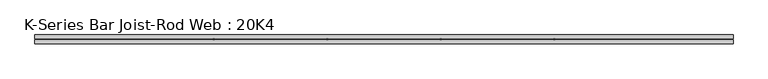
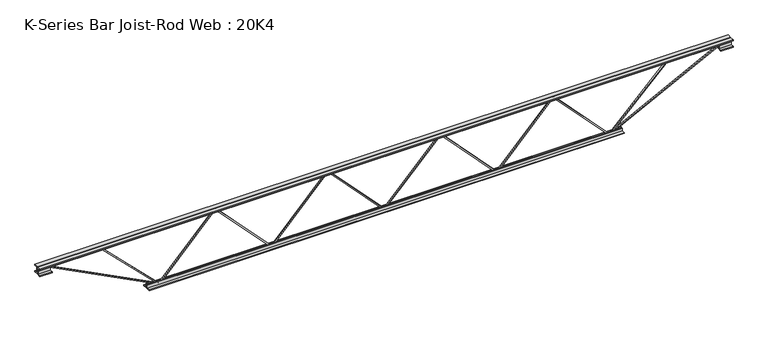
"""IFC4 building model written with IfcOpenShell, lengths in millimetres: beam geometry, K-Series Bar Joist-Rod Web : 20K4."""

from ifc_helpers import new_model, si_unit, frame, origin, place, context, project, spatial, polyline, outline, extrude, source, transform, mapped, element, save


def k_series_bar_joist_rod_web_20k4_3f3eeb71(model_context):
    return source(origin(), model_context, "Body", "SweptSolid", [
        extrude(outline(polyline([(-242.8875, 0.0), (-252.4125, 0.0), (-252.4125, 5.2334525), (242.8875, 471.1647025), (242.8875, 473.3977975), (-252.4125, 939.3290475), (-252.4125, 944.5625), (-242.8875, 944.5625), (-242.8875, 943.4459525), (252.4125, 477.5147025), (252.4125, 467.0477975), (-242.8875, 1.1165475), (-242.8875, 0.0)])), frame((0.0, -4.7625, 0.0), z_axis=(0.0, 1.0, 0.0), x_axis=(0.0, 0.0, 1.0)), (0.0, 0.0, 1.0), 9.525),
        extrude(outline(polyline([(-242.8875, -944.5625), (-252.4125, -944.5625), (-252.4125, -939.3290475), (242.8875, -473.3977975), (242.8875, -471.1647025), (-252.4125, -5.2334525), (-252.4125, 0.0), (-242.8875, 0.0), (-242.8875, -1.1165475), (252.4125, -467.0477975), (252.4125, -477.5147025), (-242.8875, -943.4459525), (-242.8875, -944.5625)])), frame((0.0, -4.7625, 0.0), z_axis=(0.0, 1.0, 0.0), x_axis=(0.0, 0.0, 1.0)), (0.0, 0.0, 1.0), 9.525),
        extrude(outline(polyline([(-242.8875, 944.5625), (-252.4125, 944.5625), (-252.4125, 949.7959525), (242.8875, 1415.7272025), (242.8875, 1417.9602975), (-252.4125, 1883.8915475), (-252.4125, 1889.125), (-242.8875, 1889.125), (-242.8875, 1888.0084525), (252.4125, 1422.0772025), (252.4125, 1411.6102975), (-242.8875, 945.6790475), (-242.8875, 944.5625)])), frame((0.0, -4.7625, 0.0), z_axis=(0.0, 1.0, 0.0), x_axis=(0.0, 0.0, 1.0)), (0.0, 0.0, 1.0), 9.525),
        extrude(outline(polyline([(-242.8875, -1889.125), (-252.4125, -1889.125), (-252.4125, -1883.8915475), (242.8875, -1417.9602975), (242.8875, -1415.7272025), (-252.4125, -949.7959525), (-252.4125, -944.5625), (-242.8875, -944.5625), (-242.8875, -945.6790475), (252.4125, -1411.6102975), (252.4125, -1422.0772025), (-242.8875, -1888.0084525), (-242.8875, -1889.125)])), frame((0.0, -4.7625, 0.0), z_axis=(0.0, 1.0, 0.0), x_axis=(0.0, 0.0, 1.0)), (0.0, 0.0, 1.0), 9.525),
        extrude(outline(polyline([(4.7625, 254.0), (36.5125, 254.0), (36.5125, 247.65), (11.1125, 247.65), (11.1125, 222.25), (4.7625, 222.25), (4.7625, 254.0)])), frame((-2905.125, 0.0, 0.0), z_axis=(1.0, 0.0, 0.0), x_axis=(0.0, 1.0, 0.0)), (0.0, 0.0, 1.0), 5810.25),
        extrude(outline(polyline([(-4.7625, 254.0), (-4.7625, 222.25), (-11.1125, 222.25), (-11.1125, 247.65), (-36.5125, 247.65), (-36.5125, 254.0), (-4.7625, 254.0)])), frame((-2905.125, 0.0, 0.0), z_axis=(1.0, 0.0, 0.0), x_axis=(0.0, 1.0, 0.0)), (0.0, 0.0, 1.0), 5810.25),
        extrude(outline(polyline([(-4.7625, 190.5), (-36.5125, 190.5), (-36.5125, 196.85), (-11.1125, 196.85), (-11.1125, 222.25), (-4.7625, 222.25), (-4.7625, 190.5)])), frame((-2905.125, 0.0, 0.0), z_axis=(1.0, 0.0, 0.0), x_axis=(0.0, 1.0, 0.0)), (0.0, 0.0, 1.0), 101.6),
        extrude(outline(polyline([(36.5125, 190.5), (4.7625, 190.5), (4.7625, 222.25), (11.1125, 222.25), (11.1125, 196.85), (36.5125, 196.85), (36.5125, 190.5)])), frame((-2905.125, 0.0, 0.0), z_axis=(1.0, 0.0, 0.0), x_axis=(0.0, 1.0, 0.0)), (0.0, 0.0, 1.0), 101.6),
        extrude(outline(polyline([(4.7625, 190.5), (4.7625, 222.25), (11.1125, 222.25), (11.1125, 196.85), (36.5125, 196.85), (36.5125, 190.5), (4.7625, 190.5)])), frame((2803.525, 0.0, 0.0), z_axis=(1.0, 0.0, 0.0), x_axis=(0.0, 1.0, 0.0)), (0.0, 0.0, 1.0), 101.6),
        extrude(outline(polyline([(-4.7625, 190.5), (-36.5125, 190.5), (-36.5125, 196.85), (-11.1125, 196.85), (-11.1125, 222.25), (-4.7625, 222.25), (-4.7625, 190.5)])), frame((2803.525, 0.0, 0.0), z_axis=(1.0, 0.0, 0.0), x_axis=(0.0, 1.0, 0.0)), (0.0, 0.0, 1.0), 101.6),
        extrude(outline(polyline([(4.7625, -254.0), (4.7625, -222.25), (11.1125, -222.25), (11.1125, -247.65), (36.5125, -247.65), (36.5125, -254.0), (4.7625, -254.0)])), frame((-1990.725, 0.0, 0.0), z_axis=(1.0, 0.0, 0.0), x_axis=(0.0, 1.0, 0.0)), (0.0, 0.0, 1.0), 3981.45),
        extrude(outline(polyline([(-4.7625, -254.0), (-36.5125, -254.0), (-36.5125, -247.65), (-11.1125, -247.65), (-11.1125, -222.25), (-4.7625, -222.25), (-4.7625, -254.0)])), frame((-1990.725, 0.0, 0.0), z_axis=(1.0, 0.0, 0.0), x_axis=(0.0, 1.0, 0.0)), (0.0, 0.0, 1.0), 3981.45),
        extrude(outline(polyline([(0.0, -9.525), (0.0, 0.0), (1028.0726482, 0.0), (1028.0726482, -9.525), (0.0, -9.525)])), frame((-2805.7017905, 4.7625, 218.0140834), z_axis=(0.45706886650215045, 0.0, 0.8894313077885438), x_axis=(0.8894313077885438, 0.0, -0.45706886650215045)), (0.0, 0.0, 1.0), 9.525),
        extrude(outline(polyline([(0.0, -9.525), (0.0, 0.0), (666.2248788, 0.0), (666.2248788, -9.525), (0.0, -9.525)])), frame((-2364.7653241, 4.7625, 218.8739035), z_axis=(0.7053174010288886, 0.0, 0.708891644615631), x_axis=(0.708891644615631, 0.0, -0.7053174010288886)), (0.0, 0.0, 1.0), 9.525),
        extrude(outline(polyline([(0.0, -9.525), (0.0, 0.0), (1028.0726482, 0.0), (1028.0726482, -9.525), (0.0, -9.525)])), frame((2805.7017905, -4.7625, 218.0140834), z_axis=(-0.45706886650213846, 0.0, 0.8894313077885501), x_axis=(-0.8894313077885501, 0.0, -0.45706886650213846)), (0.0, 0.0, 1.0), 9.525),
        extrude(outline(polyline([(0.0, -9.525), (0.0, 0.0), (666.2248788, 0.0), (666.2248788, -9.525), (0.0, -9.525)])), frame((2364.7653241, -4.7625, 218.8739035), z_axis=(-0.7053174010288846, 0.0, 0.7088916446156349), x_axis=(-0.7088916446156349, 0.0, -0.7053174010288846)), (0.0, 0.0, 1.0), 9.525),
    ])


if __name__ == "__main__":
    model = new_model("IFC4")
    model_context = context("Model", 3, world=origin())
    ifc_project = project(units=[si_unit("LENGTHUNIT", "METRE", prefix="MILLI")], contexts=[model_context])
    site = spatial("IfcSite", under=ifc_project)
    building = spatial("IfcBuilding", under=site)
    placement = place(None, origin())
    k_series_bar_joist_rod_web_20k4_shape = k_series_bar_joist_rod_web_20k4_3f3eeb71(model_context)
    element("IfcBeam", 1, ObjectType="K-Series Bar Joist-Rod Web : 20K4", at=placement, inside=building, context=model_context, shape_type="MappedRepresentation", body=[
        mapped(k_series_bar_joist_rod_web_20k4_shape, transform((0.0, 0.0, 0.0), x_axis=(1.0, 0.0, 0.0), y_axis=(0.0, 1.0, 0.0), z_axis=(0.0, 0.0, 1.0))),
    ])
    save(model, "model.ifc")
